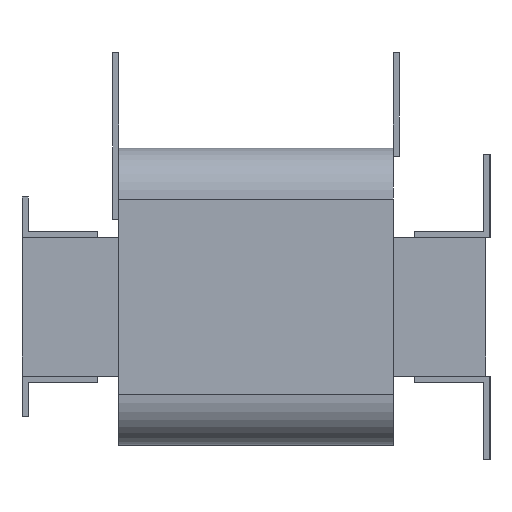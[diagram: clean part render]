
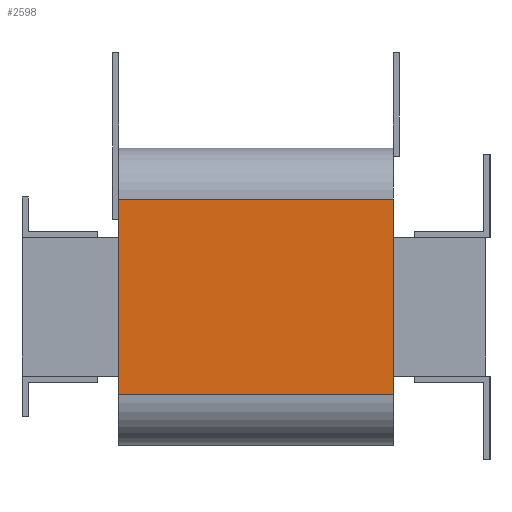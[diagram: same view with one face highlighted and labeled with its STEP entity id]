
A CAD part, left-side view. The second image highlights one B-rep face of the part: STEP entity #2598.
In plain terms, the highlighted planar face has unit normal (-1, 0, 0).
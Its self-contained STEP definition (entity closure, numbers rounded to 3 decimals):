
#102=PLANE('',#2804);
#231=FACE_OUTER_BOUND('',#381,.T.);
#381=EDGE_LOOP('',(#2166,#2167,#2168,#2169));
#630=LINE('',#4035,#948);
#649=LINE('',#4085,#967);
#650=LINE('',#4088,#968);
#651=LINE('',#4089,#969);
#948=VECTOR('',#3290,10.);
#967=VECTOR('',#3335,10.);
#968=VECTOR('',#3338,10.);
#969=VECTOR('',#3339,10.);
#1291=VERTEX_POINT('',#4032);
#1292=VERTEX_POINT('',#4034);
#1310=VERTEX_POINT('',#4083);
#1311=VERTEX_POINT('',#4087);
#1601=EDGE_CURVE('',#1291,#1292,#630,.T.);
#1627=EDGE_CURVE('',#1310,#1291,#649,.T.);
#1628=EDGE_CURVE('',#1310,#1311,#650,.T.);
#1629=EDGE_CURVE('',#1292,#1311,#651,.T.);
#2166=ORIENTED_EDGE('',*,*,#1627,.F.);
#2167=ORIENTED_EDGE('',*,*,#1628,.T.);
#2168=ORIENTED_EDGE('',*,*,#1629,.F.);
#2169=ORIENTED_EDGE('',*,*,#1601,.F.);
#2598=ADVANCED_FACE('',(#231),#102,.T.);
#2804=AXIS2_PLACEMENT_3D('',#4086,#3336,#3337);
#3290=DIRECTION('',(0.,0.,1.));
#3335=DIRECTION('',(0.,1.,0.));
#3336=DIRECTION('center_axis',(-1.,0.,0.));
#3337=DIRECTION('ref_axis',(0.,0.,1.));
#3338=DIRECTION('',(0.,0.,1.));
#3339=DIRECTION('',(0.,-1.,0.));
#4032=CARTESIAN_POINT('',(-174.,182.5,-43.));
#4034=CARTESIAN_POINT('',(-174.,182.5,53.));
#4035=CARTESIAN_POINT('',(-174.,182.5,-68.));
#4083=CARTESIAN_POINT('',(-174.,47.5,-43.));
#4085=CARTESIAN_POINT('',(-174.,47.5,-43.));
#4086=CARTESIAN_POINT('Origin',(-174.,47.5,-68.));
#4087=CARTESIAN_POINT('',(-174.,47.5,53.));
#4088=CARTESIAN_POINT('',(-174.,47.5,-68.));
#4089=CARTESIAN_POINT('',(-174.,47.5,53.));
